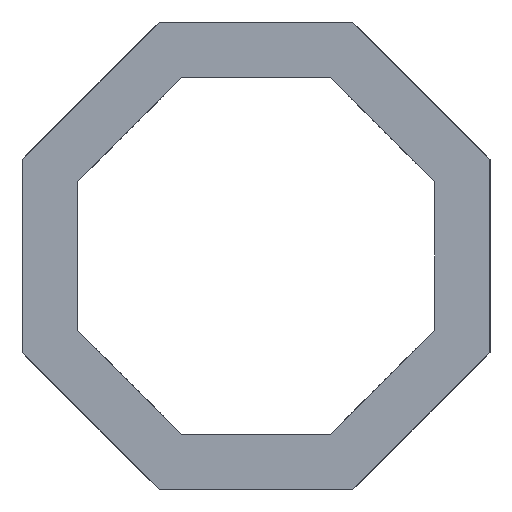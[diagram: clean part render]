
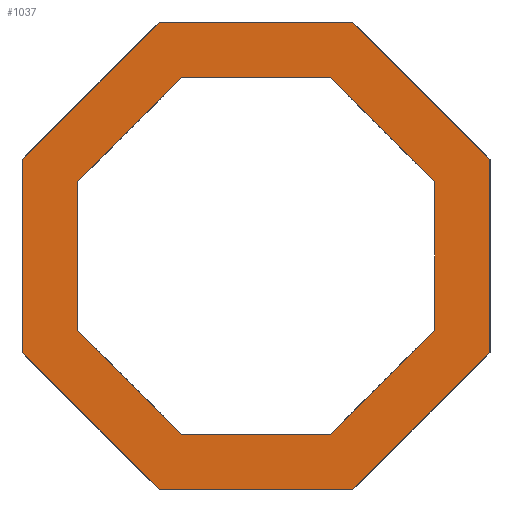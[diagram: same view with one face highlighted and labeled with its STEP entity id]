
A CAD part, left-side view. The second image highlights one B-rep face of the part: STEP entity #1037.
In plain terms, the highlighted planar face has unit normal (-1, 0, 0).
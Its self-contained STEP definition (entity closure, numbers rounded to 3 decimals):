
#1037=ADVANCED_FACE('Pad.1',(#2549,#2550),#2551,.F.);
#2549=FACE_OUTER_BOUND('',#4293,.T.);
#2550=FACE_BOUND('',#4294,.T.);
#2551=PLANE('',#4295);
#4293=EDGE_LOOP('',(#8047,#8048,#8049,#8050,#8051,#8052,#8053,#8054));
#4294=EDGE_LOOP('',(#8055,#8056,#8057,#8058,#8059,#8060,#8061,#8062));
#4295=AXIS2_PLACEMENT_3D('',#8063,#8064,#8065);
#8047=ORIENTED_EDGE('',*,*,#11284,.T.);
#8048=ORIENTED_EDGE('',*,*,#11251,.F.);
#8049=ORIENTED_EDGE('',*,*,#11218,.T.);
#8050=ORIENTED_EDGE('',*,*,#11185,.F.);
#8051=ORIENTED_EDGE('',*,*,#11152,.T.);
#8052=ORIENTED_EDGE('',*,*,#11119,.F.);
#8053=ORIENTED_EDGE('',*,*,#11086,.T.);
#8054=ORIENTED_EDGE('',*,*,#11317,.F.);
#8055=ORIENTED_EDGE('',*,*,#11416,.T.);
#8056=ORIENTED_EDGE('',*,*,#11383,.T.);
#8057=ORIENTED_EDGE('',*,*,#11349,.T.);
#8058=ORIENTED_EDGE('',*,*,#11581,.T.);
#8059=ORIENTED_EDGE('',*,*,#11548,.T.);
#8060=ORIENTED_EDGE('',*,*,#11515,.T.);
#8061=ORIENTED_EDGE('',*,*,#11482,.T.);
#8062=ORIENTED_EDGE('',*,*,#11449,.T.);
#8063=CARTESIAN_POINT('',(0.0,0.0,0.0));
#8064=DIRECTION('',(1.0,0.0,0.0));
#8065=DIRECTION('',(0.0,1.0,0.0));
#11086=EDGE_CURVE('',#13810,#13808,#13811,.T.);
#11119=EDGE_CURVE('',#13810,#13859,#13860,.T.);
#11152=EDGE_CURVE('',#13908,#13859,#13909,.T.);
#11185=EDGE_CURVE('',#13908,#13957,#13958,.T.);
#11218=EDGE_CURVE('',#14006,#13957,#14007,.T.);
#11251=EDGE_CURVE('',#14006,#14055,#14056,.T.);
#11284=EDGE_CURVE('',#14104,#14055,#14105,.T.);
#11317=EDGE_CURVE('',#14104,#13808,#14153,.T.);
#11349=EDGE_CURVE('',#14200,#14201,#14202,.T.);
#11383=EDGE_CURVE('',#14251,#14200,#14252,.T.);
#11416=EDGE_CURVE('',#14300,#14251,#14301,.T.);
#11449=EDGE_CURVE('',#14349,#14300,#14350,.T.);
#11482=EDGE_CURVE('',#14398,#14349,#14399,.T.);
#11515=EDGE_CURVE('',#14447,#14398,#14448,.T.);
#11548=EDGE_CURVE('',#14496,#14447,#14497,.T.);
#11581=EDGE_CURVE('',#14201,#14496,#14545,.T.);
#13808=VERTEX_POINT('',#17163);
#13810=VERTEX_POINT('',#17166);
#13811=LINE('',#17167,#17168);
#13859=VERTEX_POINT('',#17217);
#13860=LINE('',#17218,#17219);
#13908=VERTEX_POINT('',#17268);
#13909=LINE('',#17269,#17270);
#13957=VERTEX_POINT('',#17319);
#13958=LINE('',#17320,#17321);
#14006=VERTEX_POINT('',#17370);
#14007=LINE('',#17371,#17372);
#14055=VERTEX_POINT('',#17421);
#14056=LINE('',#17422,#17423);
#14104=VERTEX_POINT('',#17472);
#14105=LINE('',#17473,#17474);
#14153=LINE('',#17523,#17524);
#14200=VERTEX_POINT('',#17571);
#14201=VERTEX_POINT('',#17572);
#14202=LINE('',#17573,#17574);
#14251=VERTEX_POINT('',#17625);
#14252=LINE('',#17626,#17627);
#14300=VERTEX_POINT('',#17676);
#14301=LINE('',#17677,#17678);
#14349=VERTEX_POINT('',#17727);
#14350=LINE('',#17728,#17729);
#14398=VERTEX_POINT('',#17778);
#14399=LINE('',#17779,#17780);
#14447=VERTEX_POINT('',#17829);
#14448=LINE('',#17830,#17831);
#14496=VERTEX_POINT('',#17880);
#14497=LINE('',#17881,#17882);
#14545=LINE('',#17931,#17932);
#17163=CARTESIAN_POINT('',(0.0,-25.0,10.355));
#17166=CARTESIAN_POINT('',(0.0,-25.0,-10.355));
#17167=CARTESIAN_POINT('',(0.0,-25.0,0.));
#17168=VECTOR('',#20277,1.0);
#17217=CARTESIAN_POINT('',(0.0,-10.355,-25.0));
#17218=CARTESIAN_POINT('',(0.0,-17.678,-17.678));
#17219=VECTOR('',#20369,1.0);
#17268=CARTESIAN_POINT('',(0.0,10.355,-25.0));
#17269=CARTESIAN_POINT('',(0.0,0.,-25.0));
#17270=VECTOR('',#20461,1.0);
#17319=CARTESIAN_POINT('',(0.0,25.0,-10.355));
#17320=CARTESIAN_POINT('',(0.0,17.678,-17.678));
#17321=VECTOR('',#20553,1.0);
#17370=CARTESIAN_POINT('',(0.0,25.0,10.355));
#17371=CARTESIAN_POINT('',(0.0,25.0,0.0));
#17372=VECTOR('',#20645,1.0);
#17421=CARTESIAN_POINT('',(0.0,10.355,25.0));
#17422=CARTESIAN_POINT('',(0.0,17.678,17.678));
#17423=VECTOR('',#20737,1.0);
#17472=CARTESIAN_POINT('',(0.0,-10.355,25.0));
#17473=CARTESIAN_POINT('',(0.0,0.,25.0));
#17474=VECTOR('',#20829,1.0);
#17523=CARTESIAN_POINT('',(0.0,-17.678,17.678));
#17524=VECTOR('',#20921,1.0);
#17571=CARTESIAN_POINT('',(0.0,7.909,19.094));
#17572=CARTESIAN_POINT('',(0.0,-7.909,19.094));
#17573=CARTESIAN_POINT('',(0.0,0.0,19.094));
#17574=VECTOR('',#21012,1.0);
#17625=CARTESIAN_POINT('',(0.0,19.094,7.909));
#17626=CARTESIAN_POINT('',(0.0,13.501,13.501));
#17627=VECTOR('',#21105,1.0);
#17676=CARTESIAN_POINT('',(0.0,19.094,-7.909));
#17677=CARTESIAN_POINT('',(0.0,19.094,0.0));
#17678=VECTOR('',#21197,1.0);
#17727=CARTESIAN_POINT('',(0.0,7.909,-19.094));
#17728=CARTESIAN_POINT('',(0.0,13.501,-13.501));
#17729=VECTOR('',#21289,1.0);
#17778=CARTESIAN_POINT('',(0.0,-7.909,-19.094));
#17779=CARTESIAN_POINT('',(0.0,0.0,-19.094));
#17780=VECTOR('',#21381,1.0);
#17829=CARTESIAN_POINT('',(0.0,-19.094,-7.909));
#17830=CARTESIAN_POINT('',(0.0,-13.501,-13.501));
#17831=VECTOR('',#21473,1.0);
#17880=CARTESIAN_POINT('',(0.0,-19.094,7.909));
#17881=CARTESIAN_POINT('',(0.0,-19.094,0.0));
#17882=VECTOR('',#21565,1.0);
#17931=CARTESIAN_POINT('',(0.0,-13.501,13.501));
#17932=VECTOR('',#21657,1.0);
#20277=DIRECTION('',(0.0,0.0,1.0));
#20369=DIRECTION('',(0.0,0.707,-0.707));
#20461=DIRECTION('',(0.0,-1.0,0.));
#20553=DIRECTION('',(0.0,0.707,0.707));
#20645=DIRECTION('',(0.0,0.,-1.0));
#20737=DIRECTION('',(0.0,-0.707,0.707));
#20829=DIRECTION('',(0.0,1.0,0.0));
#20921=DIRECTION('',(0.0,-0.707,-0.707));
#21012=DIRECTION('',(0.0,-1.0,0.0));
#21105=DIRECTION('',(0.0,-0.707,0.707));
#21197=DIRECTION('',(0.0,0.0,1.0));
#21289=DIRECTION('',(0.0,0.707,0.707));
#21381=DIRECTION('',(0.0,1.0,0.0));
#21473=DIRECTION('',(0.0,0.707,-0.707));
#21565=DIRECTION('',(0.0,0.0,-1.0));
#21657=DIRECTION('',(0.0,-0.707,-0.707));
